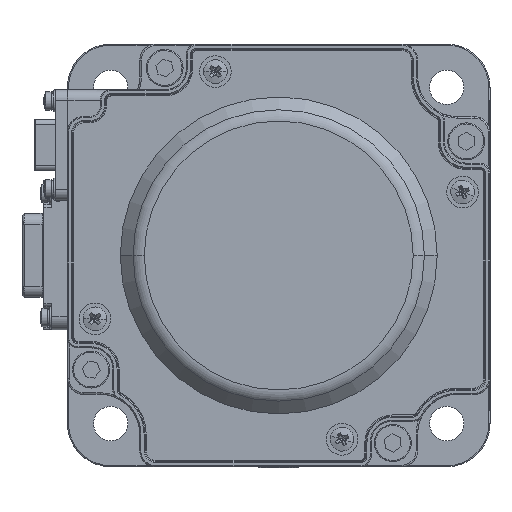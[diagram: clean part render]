
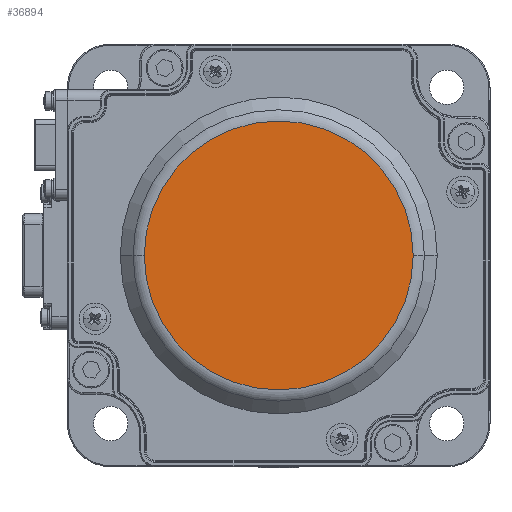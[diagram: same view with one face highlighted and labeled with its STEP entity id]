
A CAD part, left-side view. The second image highlights one B-rep face of the part: STEP entity #36894.
In plain terms, the highlighted planar face has unit normal (-1, 0, 0).
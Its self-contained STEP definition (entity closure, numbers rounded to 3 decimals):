
#6334 = EDGE_CURVE ( 'NONE', #129295, #50684, #48366, .T. ) ;
#7378 = PLANE ( 'NONE',  #188968 ) ;
#8603 = EDGE_LOOP ( 'NONE', ( #143605, #193868 ) ) ;
#10096 = CARTESIAN_POINT ( 'NONE',  ( -406.88, -25.457, -514.553 ) ) ;
#21173 = CARTESIAN_POINT ( 'NONE',  ( -406.88, 0., -514.553 ) ) ;
#36894 = ADVANCED_FACE ( 'NONE', ( #57542 ), #7378, .F. ) ;
#48366 = CIRCLE ( 'NONE', #103073, 25.457 ) ;
#50684 = VERTEX_POINT ( 'NONE', #155579 ) ;
#57542 = FACE_OUTER_BOUND ( 'NONE', #8603, .T. ) ;
#80190 = EDGE_CURVE ( 'NONE', #50684, #129295, #93331, .T. ) ;
#93331 = CIRCLE ( 'NONE', #208956, 25.457 ) ;
#103073 = AXIS2_PLACEMENT_3D ( 'NONE', #204153, #138266, #183938 ) ;
#129054 = DIRECTION ( 'NONE',  ( 0., 1., 0. ) ) ;
#129295 = VERTEX_POINT ( 'NONE', #10096 ) ;
#138266 = DIRECTION ( 'NONE',  ( -1., 0., 0. ) ) ;
#143605 = ORIENTED_EDGE ( 'NONE', *, *, #80190, .T. ) ;
#155579 = CARTESIAN_POINT ( 'NONE',  ( -406.88, 25.457, -514.553 ) ) ;
#161996 = DIRECTION ( 'NONE',  ( 1., 0., 0. ) ) ;
#167408 = DIRECTION ( 'NONE',  ( 0., 1., 0. ) ) ;
#169510 = DIRECTION ( 'NONE',  ( -1., 0., 0. ) ) ;
#176881 = CARTESIAN_POINT ( 'NONE',  ( -406.88, 0., -514.553 ) ) ;
#183938 = DIRECTION ( 'NONE',  ( 0., 1., 0. ) ) ;
#188968 = AXIS2_PLACEMENT_3D ( 'NONE', #176881, #161996, #129054 ) ;
#193868 = ORIENTED_EDGE ( 'NONE', *, *, #6334, .T. ) ;
#204153 = CARTESIAN_POINT ( 'NONE',  ( -406.88, 0., -514.553 ) ) ;
#208956 = AXIS2_PLACEMENT_3D ( 'NONE', #21173, #169510, #167408 ) ;
